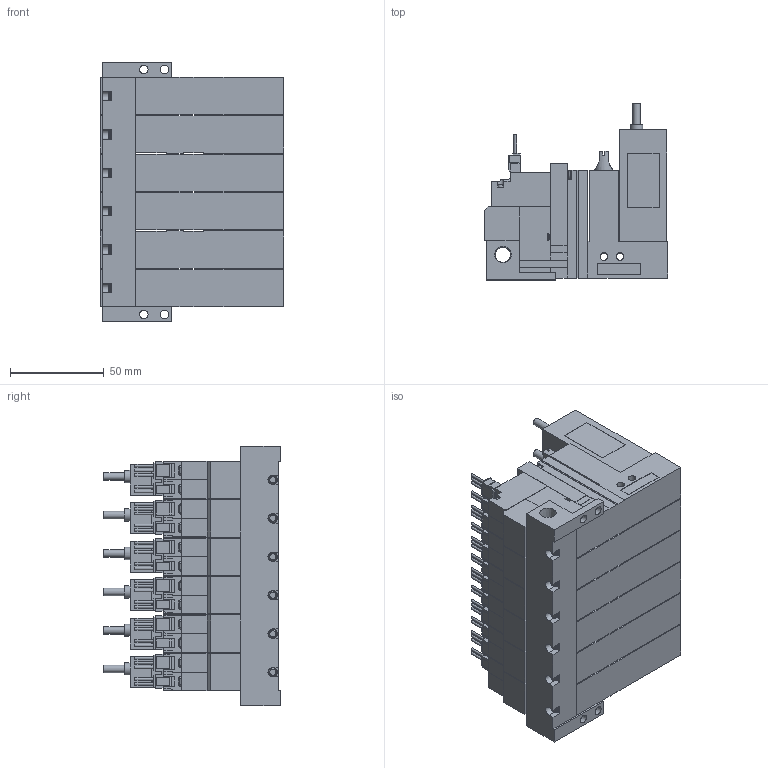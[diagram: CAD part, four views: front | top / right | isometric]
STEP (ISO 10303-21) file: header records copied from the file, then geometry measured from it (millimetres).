
FILE_DESCRIPTION(('STEP AP203'),'1');
FILE_NAME('VG_VGPLC5WLR606.stp','2025-02-25T01:02:32',(' '),(' '),'Spatial InterOp 3D',' ',' ');
FILE_SCHEMA(('CONFIG_CONTROL_DESIGN'));
Length unit declared in the file: millimetre
Products named in the file (5): BMC22M※※※※VG_VGPLC5WLR606; Solenoid valve W; Pressure sensor VGLC; Unit LC; Base MR60R
Assembly tree (19 placements, depth 2):
  BMC22M※※※※VG_VGPLC5WLR606
    Solenoid valve W  x6
    Pressure sensor VGLC  x6
    Unit LC  x6
    Base MR60R
Bounding box: 97.6 x 94 x 138.5 mm (x, y, z)
Volume: 676506.1 mm3; surface area: 173676.4 mm2
Topology: 19 solids, 19 shells, 2397 faces, 6413 edges, 4228 vertices
Faces by surface type: plane 2030, cylinder 293, cone 44, torus 30
Full cylindrical faces by diameter (mm): 1.4 x30, 2.5 x18, 3 x24, 3.5 x24, 3.6 x6, 4 x36, 4.134 x6, 4.5 x4, 5.2 x6, 6 x6, 6.5 x6, 6.6 x6, 8.279 x1
Entity records: 15309 total; most frequent: CARTESIAN_POINT 2952, DIRECTION 2441, ORIENTED_EDGE 2370, EDGE_CURVE 1185, LINE 949, VECTOR 949, VERTEX_POINT 831, AXIS2_PLACEMENT_3D 746
